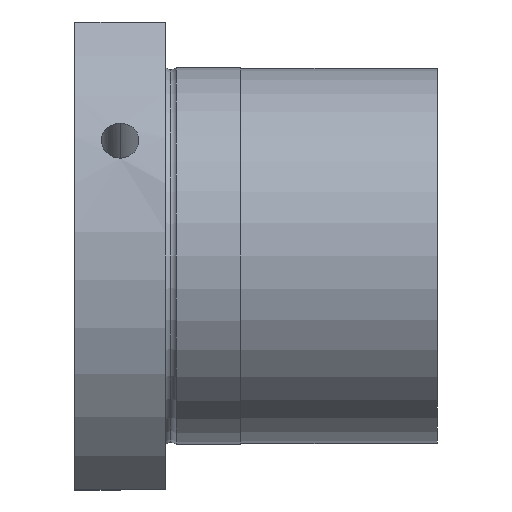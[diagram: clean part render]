
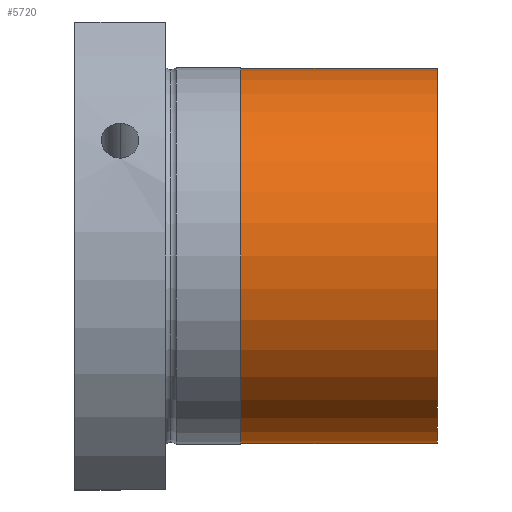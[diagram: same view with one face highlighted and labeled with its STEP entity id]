
A CAD part, front view. The second image highlights one B-rep face of the part: STEP entity #5720.
In plain terms, the highlighted cylindrical face has radius 24.85 mm (diameter 49.7 mm), a partial arc.
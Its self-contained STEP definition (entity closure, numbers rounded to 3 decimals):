
#41 = CARTESIAN_POINT ( 'NONE',  ( -3.63, 0., 0. ) ) ;
#65 = EDGE_LOOP ( 'NONE', ( #5407, #5323, #2275, #5007 ) ) ;
#197 = AXIS2_PLACEMENT_3D ( 'NONE', #4996, #2197, #5464 ) ;
#406 = LINE ( 'NONE', #2062, #2597 ) ;
#500 = DIRECTION ( 'NONE',  ( 0., 0., 1. ) ) ;
#631 = LINE ( 'NONE', #4281, #2771 ) ;
#728 = EDGE_CURVE ( 'NONE', #1782, #3134, #406, .T. ) ;
#1279 = CIRCLE ( 'NONE', #197, 24.85 ) ;
#1581 = DIRECTION ( 'NONE',  ( 0., 0., 1. ) ) ;
#1782 = VERTEX_POINT ( 'NONE', #3206 ) ;
#2062 = CARTESIAN_POINT ( 'NONE',  ( -100.792, 0., 24.85 ) ) ;
#2197 = DIRECTION ( 'NONE',  ( -1., 0., 0. ) ) ;
#2275 = ORIENTED_EDGE ( 'NONE', *, *, #728, .T. ) ;
#2514 = DIRECTION ( 'NONE',  ( -1., 0., 0. ) ) ;
#2558 = AXIS2_PLACEMENT_3D ( 'NONE', #4837, #2514, #1581 ) ;
#2597 = VECTOR ( 'NONE', #4851, 1000. ) ;
#2599 = CYLINDRICAL_SURFACE ( 'NONE', #2558, 24.85 ) ;
#2771 = VECTOR ( 'NONE', #3811, 1000. ) ;
#3134 = VERTEX_POINT ( 'NONE', #3742 ) ;
#3206 = CARTESIAN_POINT ( 'NONE',  ( 22.37, 0., 24.85 ) ) ;
#3263 = AXIS2_PLACEMENT_3D ( 'NONE', #41, #3264, #500 ) ;
#3264 = DIRECTION ( 'NONE',  ( -1., 0., 0. ) ) ;
#3467 = EDGE_CURVE ( 'NONE', #5946, #4880, #631, .T. ) ;
#3742 = CARTESIAN_POINT ( 'NONE',  ( -3.63, 0., 24.85 ) ) ;
#3811 = DIRECTION ( 'NONE',  ( -1., 0., 0. ) ) ;
#3813 = FACE_OUTER_BOUND ( 'NONE', #65, .T. ) ;
#4281 = CARTESIAN_POINT ( 'NONE',  ( -100.792, 0., -24.85 ) ) ;
#4837 = CARTESIAN_POINT ( 'NONE',  ( -100.792, 0., 0. ) ) ;
#4851 = DIRECTION ( 'NONE',  ( -1., 0., 0. ) ) ;
#4880 = VERTEX_POINT ( 'NONE', #5416 ) ;
#4996 = CARTESIAN_POINT ( 'NONE',  ( 22.37, 0., 0. ) ) ;
#5007 = ORIENTED_EDGE ( 'NONE', *, *, #5396, .F. ) ;
#5055 = EDGE_CURVE ( 'NONE', #5946, #1782, #1279, .T. ) ;
#5323 = ORIENTED_EDGE ( 'NONE', *, *, #5055, .T. ) ;
#5396 = EDGE_CURVE ( 'NONE', #4880, #3134, #5631, .T. ) ;
#5407 = ORIENTED_EDGE ( 'NONE', *, *, #3467, .F. ) ;
#5416 = CARTESIAN_POINT ( 'NONE',  ( -3.63, 0., -24.85 ) ) ;
#5464 = DIRECTION ( 'NONE',  ( 0., 0., 1. ) ) ;
#5631 = CIRCLE ( 'NONE', #3263, 24.85 ) ;
#5720 = ADVANCED_FACE ( 'NONE', ( #3813 ), #2599, .T. ) ;
#5938 = CARTESIAN_POINT ( 'NONE',  ( 22.37, 0., -24.85 ) ) ;
#5946 = VERTEX_POINT ( 'NONE', #5938 ) ;
